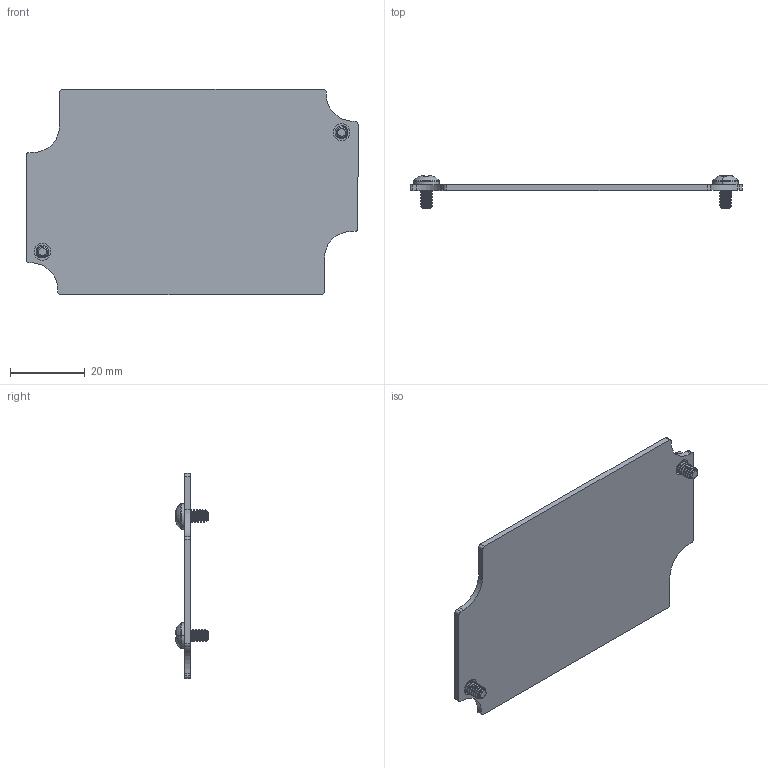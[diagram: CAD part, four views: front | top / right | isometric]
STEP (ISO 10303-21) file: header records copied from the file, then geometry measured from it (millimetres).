
FILE_DESCRIPTION (( 'STEP AP214' ), '1' );
FILE_NAME ('AN-12K.step', '2026-09-17T19:31:37', ( '' ), ( '' ), 'SwSTEP 2.0', 'SolidWorks 2026', '' );
FILE_SCHEMA (( 'AUTOMOTIVE_DESIGN' ));
Length unit declared in the file: inch
Products named in the file (3): AN-12K; SCREWS-050; AN-12-P_DEFAULT
Assembly tree (3 placements, depth 2):
  AN-12K
    AN-12-P_DEFAULT
    SCREWS-050  x2
Bounding box: 88.9 x 8.8 x 54.9 mm (x, y, z)
Volume: 6984.8 mm3; surface area: 9745.7 mm2
Topology: 3 solids, 3 shells, 700 faces, 1698 edges, 1002 vertices
Faces by surface type: bspline 368, cylinder 172, plane 64, sphere 48, cone 40, torus 8
Entity records: 17372 total; most frequent: CARTESIAN_POINT 10059, ORIENTED_EDGE 1778, DIRECTION 1041, EDGE_CURVE 889, VERTEX_POINT 529, B_SPLINE_CURVE_WITH_KNOTS 415, AXIS2_PLACEMENT_3D 380, EDGE_LOOP 370
